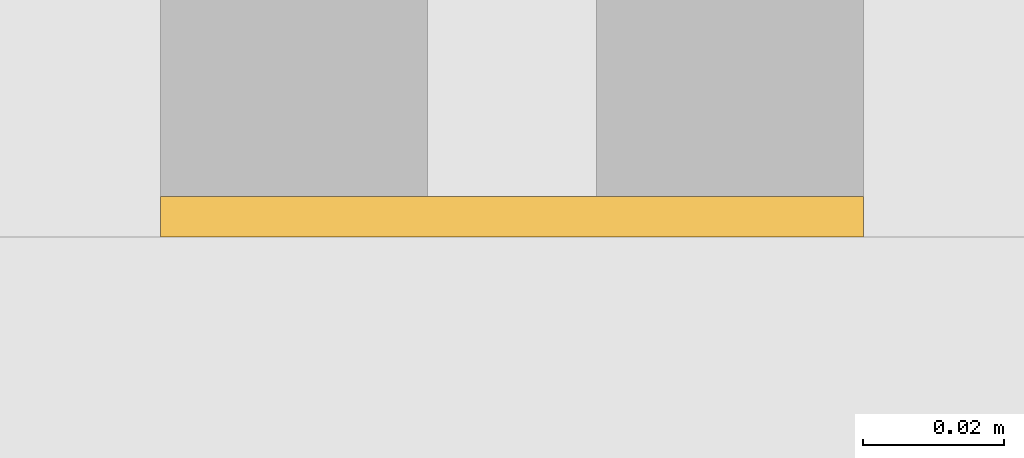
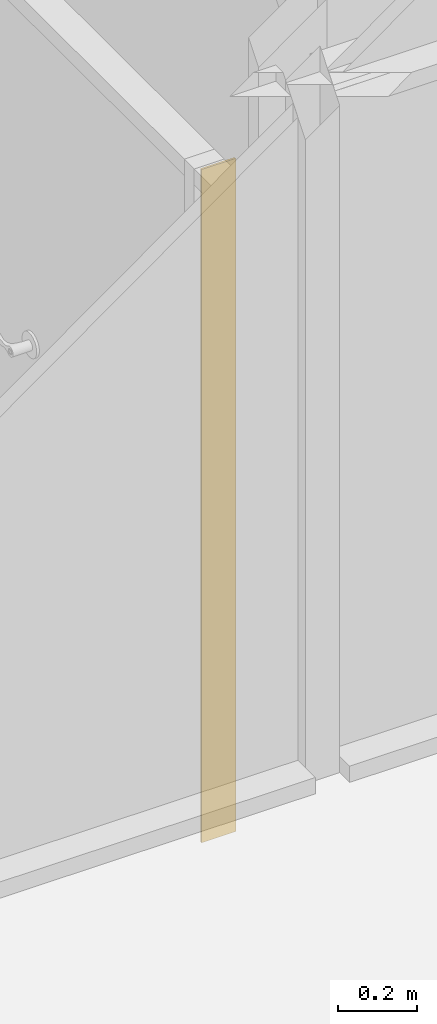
# One storey, part 78 of 100: 1 curtain wall, 1 opening, 1 element without a shape of its own.
"""IFC2X3 building model written with IfcOpenShell, lengths in millimetres."""

from ifc_helpers import new_model, entity, si_unit, converted_unit, derived_unit, direction, frame, frame_2d, origin, place, context, subcontext, project, spatial, rectangle, extrude, material, layer, layer_set, layer_usage, type_object, element, aggregate, save


model = new_model("IFC2X3")

# Units and contexts
model_context = context("Model", 3, precision=0.01, world=origin(), true_north=direction((6.123031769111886e-17, 1.0)))
body_context = subcontext(model_context, "Body", "Model", "MODEL_VIEW")
ifc_project = project(units=[si_unit("LENGTHUNIT", "METRE", prefix="MILLI"), si_unit("AREAUNIT", "SQUARE_METRE"), si_unit("VOLUMEUNIT", "CUBIC_METRE"), converted_unit("PLANEANGLEUNIT", "DEGREE", entity("IfcRatioMeasure", 0.017453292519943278), si_unit("PLANEANGLEUNIT", "RADIAN"), dimensions=[0, 0, 0, 0, 0, 0, 0]), si_unit("MASSUNIT", "GRAM", prefix="KILO"), derived_unit("MASSDENSITYUNIT", [(si_unit("MASSUNIT", "GRAM", prefix="KILO"), 1), (si_unit("LENGTHUNIT", "METRE"), -3)]), derived_unit("MOMENTOFINERTIAUNIT", [(si_unit("LENGTHUNIT", "METRE"), 4)]), si_unit("TIMEUNIT", "SECOND"), si_unit("FREQUENCYUNIT", "HERTZ"), si_unit("THERMODYNAMICTEMPERATUREUNIT", "DEGREE_CELSIUS"), derived_unit("THERMALTRANSMITTANCEUNIT", [(si_unit("MASSUNIT", "GRAM", prefix="KILO"), 1), (si_unit("THERMODYNAMICTEMPERATUREUNIT", "KELVIN"), -1), (si_unit("TIMEUNIT", "SECOND"), -3)]), derived_unit("VOLUMETRICFLOWRATEUNIT", [(si_unit("LENGTHUNIT", "METRE"), 3), (si_unit("TIMEUNIT", "SECOND"), -1)]), derived_unit("MASSFLOWRATEUNIT", [(si_unit("MASSUNIT", "GRAM", prefix="KILO"), 1), (si_unit("TIMEUNIT", "SECOND"), -1)]), derived_unit("ROTATIONALFREQUENCYUNIT", [(si_unit("TIMEUNIT", "SECOND"), -1)]), si_unit("ELECTRICCURRENTUNIT", "AMPERE"), si_unit("ELECTRICVOLTAGEUNIT", "VOLT"), si_unit("POWERUNIT", "WATT"), si_unit("FORCEUNIT", "NEWTON", prefix="KILO"), si_unit("ILLUMINANCEUNIT", "LUX"), si_unit("LUMINOUSFLUXUNIT", "LUMEN"), si_unit("LUMINOUSINTENSITYUNIT", "CANDELA"), derived_unit("USERDEFINED", [(si_unit("MASSUNIT", "GRAM", prefix="KILO"), -1), (si_unit("LENGTHUNIT", "METRE"), -2), (si_unit("TIMEUNIT", "SECOND"), 3), (si_unit("LUMINOUSFLUXUNIT", "LUMEN"), 1)]), derived_unit("SOUNDPOWERUNIT", [(si_unit("MASSUNIT", "GRAM", prefix="KILO"), 1), (si_unit("LENGTHUNIT", "METRE"), 2), (si_unit("TIMEUNIT", "SECOND"), -3)]), derived_unit("SOUNDPRESSUREUNIT", [(si_unit("MASSUNIT", "GRAM", prefix="KILO"), 1), (si_unit("LENGTHUNIT", "METRE"), -1), (si_unit("TIMEUNIT", "SECOND"), -2)]), derived_unit("LINEARVELOCITYUNIT", [(si_unit("LENGTHUNIT", "METRE"), 1), (si_unit("TIMEUNIT", "SECOND"), -1)]), si_unit("PRESSUREUNIT", "PASCAL"), derived_unit("USERDEFINED", [(si_unit("LENGTHUNIT", "METRE"), -2), (si_unit("MASSUNIT", "GRAM", prefix="KILO"), 1), (si_unit("TIMEUNIT", "SECOND"), -2)]), derived_unit("LINEARFORCEUNIT", [(si_unit("MASSUNIT", "GRAM", prefix="KILO"), 1), (si_unit("LENGTHUNIT", "METRE"), 1), (si_unit("TIMEUNIT", "SECOND"), -2), (si_unit("LENGTHUNIT", "METRE"), -1)]), derived_unit("PLANARFORCEUNIT", [(si_unit("MASSUNIT", "GRAM", prefix="KILO"), 1), (si_unit("LENGTHUNIT", "METRE"), 1), (si_unit("TIMEUNIT", "SECOND"), -2), (si_unit("LENGTHUNIT", "METRE"), -2)])], contexts=[model_context])

# Site, building, storey
site_placement = place(None, frame((-14167.972527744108, -657.2125860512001, 0.0)))
site = spatial("IfcSite", under=ifc_project, at=site_placement, Name="Default", CompositionType="ELEMENT")
building_placement = place(site_placement, origin())
building = spatial("IfcBuilding", under=site, at=building_placement, Name="Sample Building", CompositionType="ELEMENT")
storey_placement = place(building_placement, origin())
storey = spatial("IfcBuildingStorey", under=building, at=storey_placement, Name="지상 1층", CompositionType="ELEMENT", Elevation=0.0)

# Curtain walls, opening
curtain_wall_type_1 = type_object("IfcCurtainWallType", Name="커튼월:CW112-스테인리스 스틸 커튼월", PredefinedType="NOTDEFINED")
curtain_wall_1_placement = place(storey_placement, origin())
curtain_wall_1 = element("IfcCurtainWall", 1, at=curtain_wall_1_placement, inside=storey, type_object=curtain_wall_type_1, Name="커튼월:CW112-스테인리스 스틸 커튼월", ObjectType="커튼월:CW112-스테인리스 스틸 커튼월")
ifc_material = material(Name="KBIMS-콘크리트")
ifc_layer = layer(ifc_material, 100.0)
ifc_layer_set = layer_set([ifc_layer], Name="커튼월:CW112-스테인리스 스틸 커튼월")
ifc_layer_usage = layer_usage(ifc_layer_set, "AXIS2", "NEGATIVE", 50.0)
curtain_wall_type_2 = type_object("IfcCurtainWallType", Name="기본 벽:WA111-철근콘크리트구조 벽 100mm", PredefinedType="NOTDEFINED", material=ifc_layer_set)
curtain_wall_2_placement = place(storey_placement, frame((49067.972491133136, 13438.021814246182, -420.0), z_axis=(0.0, 0.0, 1.0), x_axis=(0.0, -1.0, 0.0)))
curtain_wall_2 = element("IfcCurtainWall", 2, at=curtain_wall_2_placement, type_object=curtain_wall_type_2, material=ifc_layer_usage, Name="기본 벽:WA111-철근콘크리트구조 벽 100mm", ObjectType="기본 벽:WA111-철근콘크리트구조 벽 100mm", context=body_context, shape_type="SweptSolid", body=[
    extrude(rectangle(XDim=5.809431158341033, YDim=100.00000000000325, at=frame_2d((1.0829115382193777e-12, 4.334310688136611e-12), x_axis=(1.0, 0.0))), frame((2.904715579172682, 0.0, 0.0), z_axis=(0.0, 0.0, 1.0), x_axis=(-1.0, 0.0, 0.0)), (0.0, 0.0, 1.0), 2075.0),
])
opening_placement = place(curtain_wall_2_placement, frame((-1750.0, -50.0, 0.0)))
element("IfcOpeningElement", 3, at=opening_placement, cuts=curtain_wall_2, Name="DR120-쌍여닫이문:DR120-쌍여닫이문:1", ObjectType="Opening", context=body_context, shape_type="SweptSolid", body=[
    extrude(rectangle(XDim=2099.9999999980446, YDim=1749.9999999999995, at=frame_2d((1049.9999999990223, 874.9999999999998), x_axis=(1.0, 0.0))), frame((0.0, 0.0, 0.0), z_axis=(0.0, 1.0, 0.0), x_axis=(0.0, 0.0, 1.0)), (0.0, 0.0, 1.0), 100.0),
])
aggregate(curtain_wall_1, [curtain_wall_2])

save(model, "model.ifc")
